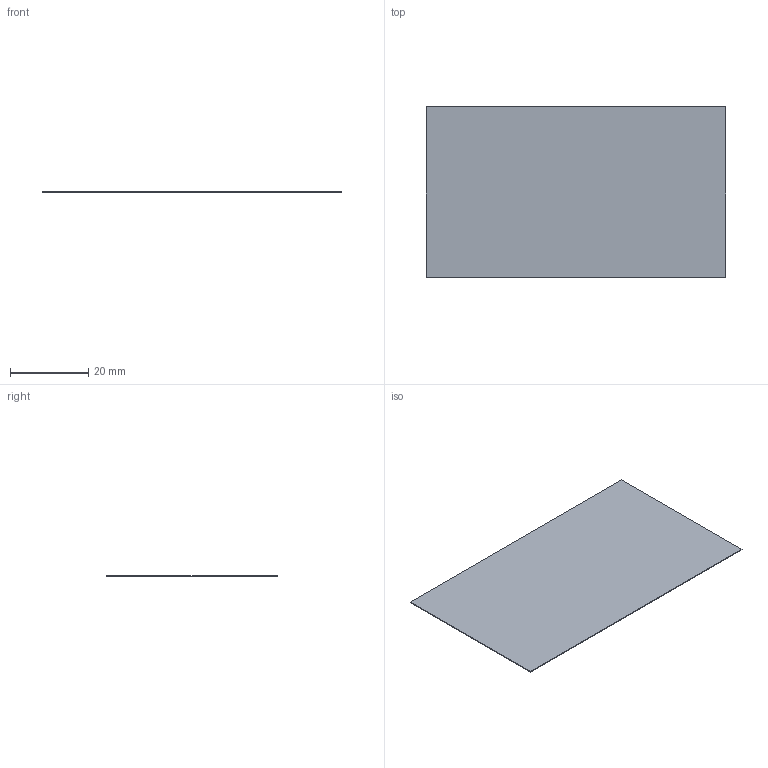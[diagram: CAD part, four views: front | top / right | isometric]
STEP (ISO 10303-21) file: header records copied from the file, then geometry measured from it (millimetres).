
FILE_DESCRIPTION(('Open CASCADE Model'),'2;1');
FILE_NAME('Open CASCADE Shape Model','2026-10-09T18:49:16',('Author'),( 'Open CASCADE'),'Open CASCADE STEP processor 7.9','Open CASCADE 7.9' ,'Unknown');
FILE_SCHEMA(('AUTOMOTIVE_DESIGN { 1 0 10303 214 1 1 1 1 }'));
Length unit declared in the file: millimetre
Products named in the file (2): Shield_Lid_76x43; lid
Assembly tree (1 placements, depth 2):
  Shield_Lid_76x43
    lid
Bounding box: 76.4 x 43.4 x 0.2 mm (x, y, z)
Volume: 663.2 mm3; surface area: 6679.4 mm2
Topology: 1 solids, 1 shells, 6 faces, 12 edges, 8 vertices
Faces by surface type: plane 6
Entity records: 349 total; most frequent: CARTESIAN_POINT 52, DIRECTION 52, LINE 36, VECTOR 36, ORIENTED_EDGE 24, PCURVE 24, DEFINITIONAL_REPRESENTATION 24, EDGE_CURVE 12
